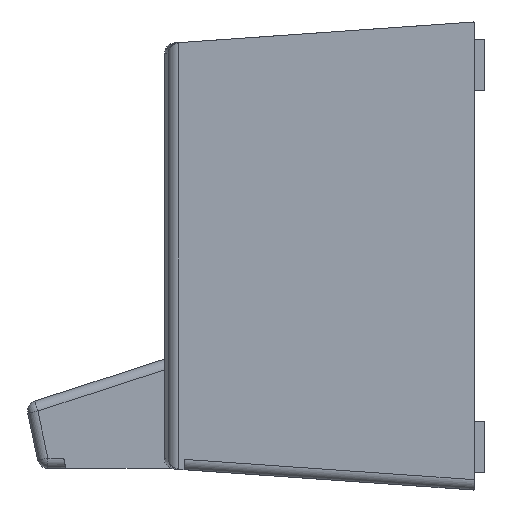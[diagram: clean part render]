
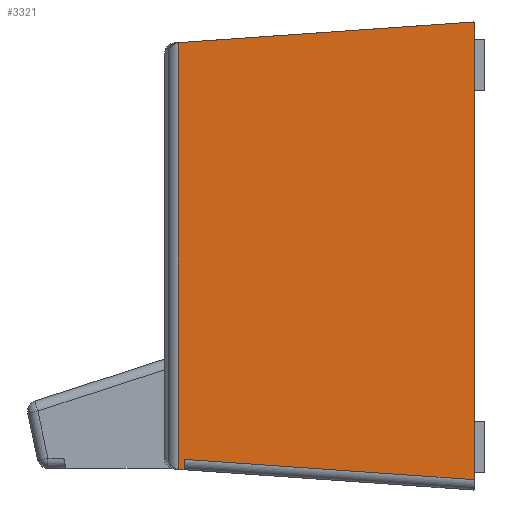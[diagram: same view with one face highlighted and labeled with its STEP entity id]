
A CAD part, left-side view. The second image highlights one B-rep face of the part: STEP entity #3321.
In plain terms, the highlighted planar face has unit normal (-1, 0, 0).
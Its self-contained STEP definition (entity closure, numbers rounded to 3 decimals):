
#62 = FACE_OUTER_BOUND ( 'NONE', #2332, .T. ) ;
#65 = CARTESIAN_POINT ( 'NONE',  ( -1000., 83.037, -447.646 ) ) ;
#138 = AXIS2_PLACEMENT_3D ( 'NONE', #6740, #7191, #4917 ) ;
#188 = B_SPLINE_CURVE_WITH_KNOTS ( 'NONE', 3,
 ( #4117, #1810, #5966, #2495 ),
 .UNSPECIFIED., .F., .F.,
 ( 4, 4 ),
 ( 0., 1. ),
 .UNSPECIFIED. ) ;
#322 = LINE ( 'NONE', #2571, #2323 ) ;
#450 = CARTESIAN_POINT ( 'NONE',  ( -1000., 571.007, -413.523 ) ) ;
#481 = VERTEX_POINT ( 'NONE', #7330 ) ;
#692 = DIRECTION ( 'NONE',  ( 0., -0.998, -0.07 ) ) ;
#717 = EDGE_CURVE ( 'NONE', #481, #6802, #987, .T. ) ;
#722 = CARTESIAN_POINT ( 'NONE',  ( -1000., 0.024, 450.047 ) ) ;
#914 = EDGE_CURVE ( 'NONE', #4953, #4737, #188, .T. ) ;
#958 = EDGE_CURVE ( 'NONE', #6802, #7197, #5291, .T. ) ;
#987 = CIRCLE ( 'NONE', #138, 20. ) ;
#1135 = VECTOR ( 'NONE', #692, 1000. ) ;
#1185 = DIRECTION ( 'NONE',  ( 0., 0., -1. ) ) ;
#1412 = CARTESIAN_POINT ( 'NONE',  ( -1000., 561.967, -394.107 ) ) ;
#1731 = VECTOR ( 'NONE', #1185, 1000. ) ;
#1778 = LINE ( 'NONE', #65, #3306 ) ;
#1792 = EDGE_CURVE ( 'NONE', #7291, #2193, #6144, .T. ) ;
#1810 = CARTESIAN_POINT ( 'NONE',  ( -1000., 571.754, 413.471 ) ) ;
#2193 = VERTEX_POINT ( 'NONE', #7097 ) ;
#2323 = VECTOR ( 'NONE', #6581, 1000. ) ;
#2332 = EDGE_LOOP ( 'NONE', ( #5843, #4491, #2368, #3982, #6797, #5256, #5084, #7351, #5709 ) ) ;
#2368 = ORIENTED_EDGE ( 'NONE', *, *, #5674, .F. ) ;
#2387 = CARTESIAN_POINT ( 'NONE',  ( -1000., 0., 739.838 ) ) ;
#2422 = PLANE ( 'NONE',  #7383 ) ;
#2495 = CARTESIAN_POINT ( 'NONE',  ( -1000., 573.234, 413.247 ) ) ;
#2571 = CARTESIAN_POINT ( 'NONE',  ( -1000., 573.234, 739.838 ) ) ;
#2811 = CARTESIAN_POINT ( 'NONE',  ( -1000., 572.497, -413.379 ) ) ;
#3246 = CARTESIAN_POINT ( 'NONE',  ( -1000., 0.024, -433.402 ) ) ;
#3306 = VECTOR ( 'NONE', #4582, 1000. ) ;
#3321 = ADVANCED_FACE ( 'NONE', ( #62 ), #2422, .F. ) ;
#3335 = CARTESIAN_POINT ( 'NONE',  ( -1000., 573.234, 413.247 ) ) ;
#3428 = LINE ( 'NONE', #6290, #1731 ) ;
#3565 = EDGE_CURVE ( 'NONE', #4737, #7291, #322, .T. ) ;
#3629 = CARTESIAN_POINT ( 'NONE',  ( -1000., 0.024, 1015.277 ) ) ;
#3687 = CARTESIAN_POINT ( 'NONE',  ( -1000., 561.967, -414.156 ) ) ;
#3874 = EDGE_CURVE ( 'NONE', #481, #4953, #7088, .T. ) ;
#3944 = VERTEX_POINT ( 'NONE', #1412 ) ;
#3982 = ORIENTED_EDGE ( 'NONE', *, *, #6724, .F. ) ;
#4117 = CARTESIAN_POINT ( 'NONE',  ( -1000., 571.007, 413.523 ) ) ;
#4145 = LINE ( 'NONE', #5987, #1135 ) ;
#4473 = CARTESIAN_POINT ( 'NONE',  ( -1000., 573.234, -413.247 ) ) ;
#4491 = ORIENTED_EDGE ( 'NONE', *, *, #1792, .T. ) ;
#4582 = DIRECTION ( 'NONE',  ( 0., 0.998, 0.07 ) ) ;
#4737 = VERTEX_POINT ( 'NONE', #3335 ) ;
#4799 = CARTESIAN_POINT ( 'NONE',  ( -1000., 571.007, 413.523 ) ) ;
#4917 = DIRECTION ( 'NONE',  ( 0., 0., 1. ) ) ;
#4953 = VERTEX_POINT ( 'NONE', #4799 ) ;
#5084 = ORIENTED_EDGE ( 'NONE', *, *, #717, .F. ) ;
#5256 = ORIENTED_EDGE ( 'NONE', *, *, #958, .F. ) ;
#5291 = LINE ( 'NONE', #3629, #7040 ) ;
#5350 = DIRECTION ( 'NONE',  ( 0., 0.998, -0.07 ) ) ;
#5674 = EDGE_CURVE ( 'NONE', #6871, #2193, #1778, .T. ) ;
#5709 = ORIENTED_EDGE ( 'NONE', *, *, #914, .T. ) ;
#5843 = ORIENTED_EDGE ( 'NONE', *, *, #3565, .T. ) ;
#5856 = DIRECTION ( 'NONE',  ( 0., 0., -1. ) ) ;
#5966 = CARTESIAN_POINT ( 'NONE',  ( -1000., 572.497, 413.379 ) ) ;
#5987 = CARTESIAN_POINT ( 'NONE',  ( -1000., -1.371, -433.499 ) ) ;
#6144 = B_SPLINE_CURVE_WITH_KNOTS ( 'NONE', 3,
 ( #4473, #2811, #7429, #450 ),
 .UNSPECIFIED., .F., .F.,
 ( 4, 4 ),
 ( 0., 1. ),
 .UNSPECIFIED. ) ;
#6153 = CARTESIAN_POINT ( 'NONE',  ( -1000., 573.234, -413.247 ) ) ;
#6290 = CARTESIAN_POINT ( 'NONE',  ( -1000., 561.967, 739.838 ) ) ;
#6356 = DIRECTION ( 'NONE',  ( 0., 1., 0. ) ) ;
#6469 = DIRECTION ( 'NONE',  ( 1., 0., 0. ) ) ;
#6581 = DIRECTION ( 'NONE',  ( 0., 0., -1. ) ) ;
#6663 = EDGE_CURVE ( 'NONE', #3944, #7197, #4145, .T. ) ;
#6724 = EDGE_CURVE ( 'NONE', #3944, #6871, #3428, .T. ) ;
#6740 = CARTESIAN_POINT ( 'NONE',  ( -1000., 20.024, 450.047 ) ) ;
#6786 = VECTOR ( 'NONE', #5350, 1000. ) ;
#6797 = ORIENTED_EDGE ( 'NONE', *, *, #6663, .T. ) ;
#6802 = VERTEX_POINT ( 'NONE', #722 ) ;
#6871 = VERTEX_POINT ( 'NONE', #3687 ) ;
#6876 = CARTESIAN_POINT ( 'NONE',  ( -1000., -19.929, 454.846 ) ) ;
#7040 = VECTOR ( 'NONE', #5856, 1000. ) ;
#7088 = LINE ( 'NONE', #6876, #6786 ) ;
#7097 = CARTESIAN_POINT ( 'NONE',  ( -1000., 571.007, -413.523 ) ) ;
#7191 = DIRECTION ( 'NONE',  ( 1., 0., 0. ) ) ;
#7197 = VERTEX_POINT ( 'NONE', #3246 ) ;
#7291 = VERTEX_POINT ( 'NONE', #6153 ) ;
#7330 = CARTESIAN_POINT ( 'NONE',  ( -1000., 0.313, 453.43 ) ) ;
#7351 = ORIENTED_EDGE ( 'NONE', *, *, #3874, .T. ) ;
#7383 = AXIS2_PLACEMENT_3D ( 'NONE', #2387, #6469, #6356 ) ;
#7429 = CARTESIAN_POINT ( 'NONE',  ( -1000., 571.754, -413.471 ) ) ;
